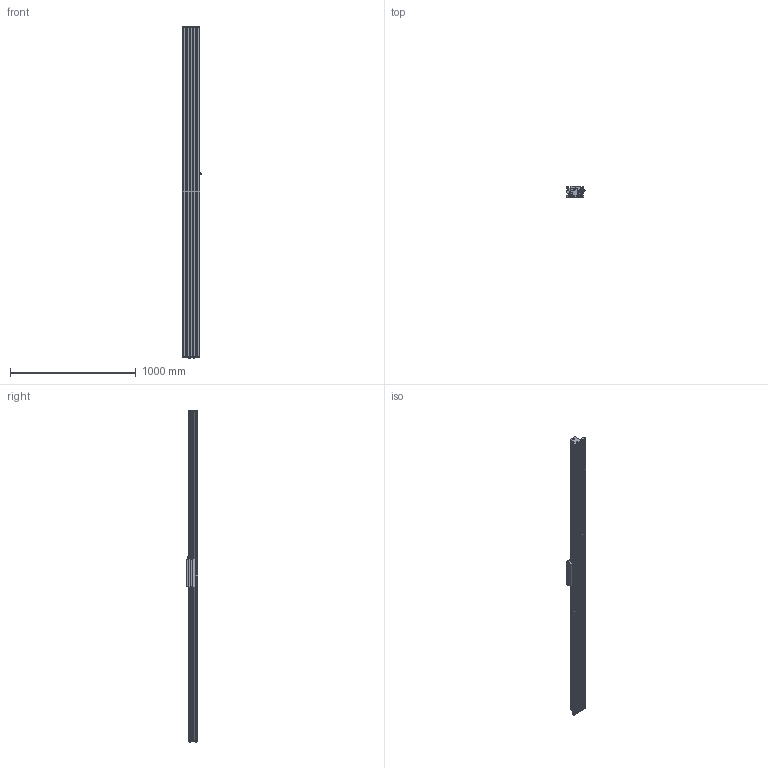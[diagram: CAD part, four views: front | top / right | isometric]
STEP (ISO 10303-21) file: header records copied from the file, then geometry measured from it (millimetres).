
FILE_DESCRIPTION (( 'STEP AP214' ), '1' );
FILE_NAME ('SINADRIVES Linear motor stage MLL20200XS-XX-1-0-ST-00-02628.STEP', '2015-07-06T09:51:55', ( 'Tecnico' ), ( '' ), 'SwSTEP 2.0', 'SolidWorks 2009', '' );
FILE_SCHEMA (( 'AUTOMOTIVE_DESIGN' ));
Length unit declared in the file: millimetre
Products named in the file (7): SINADRIVES PROFILE MLL2XXXX-2612; SINADRIVES CARRIAGE MLL20200XS-1; CARRIAGE MLL20200; Connector power+signal Y-tec 45; SINADRIVES ENDBLOCK MLL2; SINADRIVES ENDBLOCK MLL2-2; SINADRIVES Linear motor stage MLL20200XS-XX-1-0-ST-00-02628
Assembly tree (6 placements, depth 3):
  SINADRIVES Linear motor stage MLL20200XS-XX-1-0-ST-00-02628
    SINADRIVES ENDBLOCK MLL2
    SINADRIVES ENDBLOCK MLL2-2
    SINADRIVES CARRIAGE MLL20200XS-1
      Connector power+signal Y-tec 45
      CARRIAGE MLL20200
    SINADRIVES PROFILE MLL2XXXX-2612
Bounding box: 144.43 x 91 x 2636.8 mm (x, y, z)
Volume: 11707768.5 mm3; surface area: 2026847.3 mm2
Topology: 2 solids, 42 shells, 950 faces, 2640 edges, 1730 vertices
Faces by surface type: plane 445, cylinder 302, bspline 79, cone 70, torus 42, sphere 12
Entity records: 40587 total; most frequent: CARTESIAN_POINT 8656, ORIENTED_EDGE 5024, DIRECTION 4947, EDGE_CURVE 2622, AXIS2_PLACEMENT_3D 1781, VERTEX_POINT 1730, LINE 1385, VECTOR 1385
